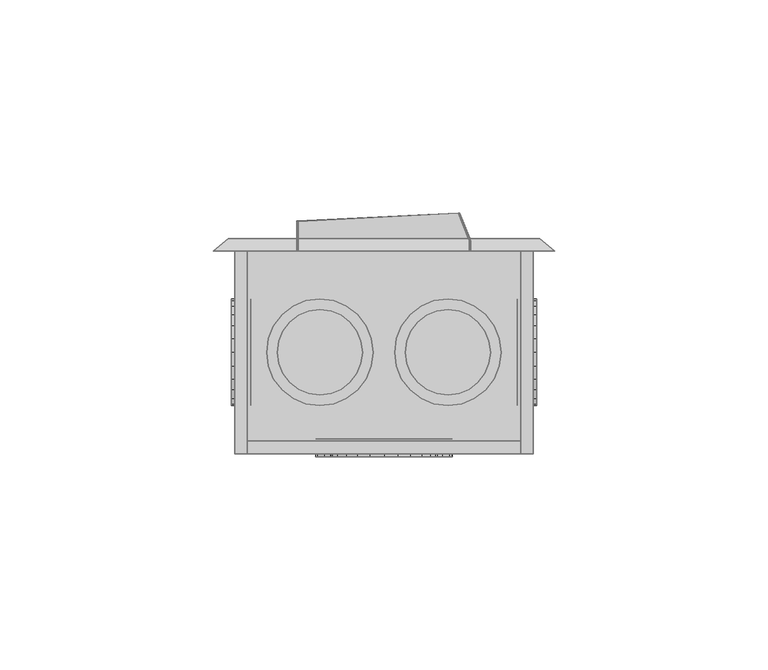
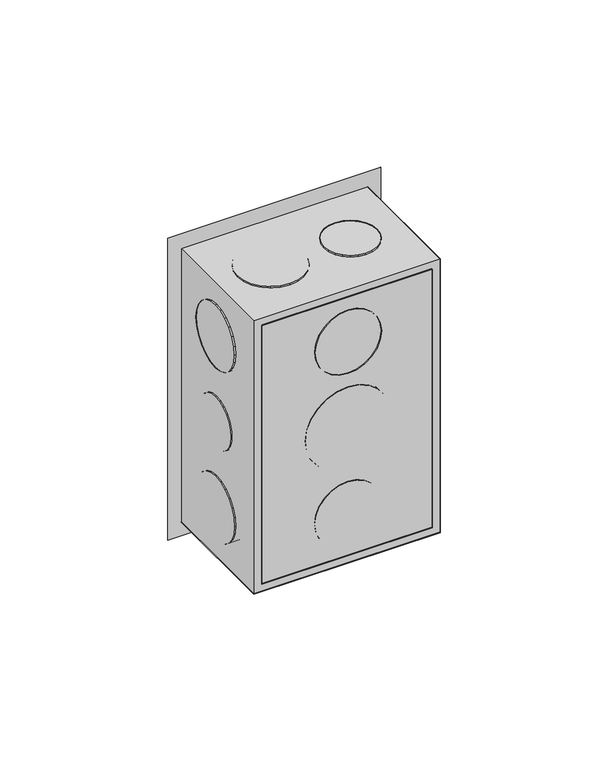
"""IFC4 building model written with IfcOpenShell, lengths in millimetres: proxy geometry,  210091 :  210091."""

from ifc_helpers import new_model, si_unit, origin, place, context, project, spatial, triangles, source, transform, mapped, element, save


def generic_models_42ce1b1e(model_context):
    return source(origin(), model_context, "Body", "Tessellation", [
        triangles([(11008.9001221, 8695.9000259, 1254.3000378), (11011.899939, 8695.9000259, 1148.7000154), (11008.9001221, 8695.9000259, 1145.6999805), (11011.899939, 8695.9000259, 1251.2999302), (11078.9005005, 8695.9000259, 1254.3000378), (11075.8995209, 8695.9000259, 1251.2999302), (11078.9005005, 8695.9000259, 1145.6999805), (11075.8995209, 8695.9000259, 1148.7000154), (11011.899939, 8648.4000183, 1251.2999302), (11011.899939, 8648.4000183, 1148.7000154), (11078.9005005, 8648.4000183, 1254.3000378), (11078.9005005, 8648.4000183, 1145.6999805), (11075.8995209, 8648.4000183, 1251.2999302), (11008.9001221, 8648.4000183, 1145.6999805), (11075.8995209, 8648.4000183, 1148.7000154), (11008.9001221, 8648.4000183, 1254.3000378), (11011.899939, 8651.3998352, 1251.2999302), (11075.8995209, 8651.3998352, 1148.7000154), (11011.899939, 8651.3998352, 1148.7000154), (11075.8995209, 8651.3998352, 1251.2999302), (11035.8996368, 8647.700061, 1186.0999855), (11029.9999969, 8647.700061, 1191.9999887), (11032.5998383, 8647.700061, 1188.6999722), (11039.7005676, 8647.700061, 1184.5000105), (11028.4000946, 8647.700061, 1195.8999687), (11043.9003113, 8647.700061, 1183.9999683), (11027.9001251, 8647.700061, 1200.0000092), (11048.000061, 8647.700061, 1184.5000105), (11028.4000946, 8647.700061, 1204.0999769), (11051.899823, 8647.700061, 1186.0999855), (11029.9999969, 8647.700061, 1208.0000296), (11055.1996216, 8647.700061, 1188.6999722), (11032.5998383, 8647.700061, 1211.2999735), (11057.699469, 8647.700061, 1191.9999887), (11035.8996368, 8647.700061, 1213.9000328), (11059.3005341, 8647.700061, 1195.8999687), (11039.7005676, 8647.700061, 1215.5000078), (11059.9004974, 8647.700061, 1200.0000092), (11043.9003113, 8647.700061, 1215.9999773), (11059.3005341, 8647.700061, 1204.0999769), (11048.000061, 8647.700061, 1215.5000078), (11057.699469, 8647.700061, 1208.0000296), (11051.899823, 8647.700061, 1213.9000328), (11055.1996216, 8647.700061, 1211.2999735), (11039.7005676, 8651.8998047, 1215.5000078), (11043.9003113, 8651.8998047, 1215.9999773), (11035.8996368, 8651.8998047, 1213.9000328), (11032.5998383, 8651.8998047, 1211.2999735), (11029.9999969, 8651.8998047, 1208.0000296), (11028.4000946, 8651.8998047, 1204.0999769), (11027.9001251, 8651.8998047, 1200.0000092), (11028.4000946, 8651.8998047, 1195.8999687), (11029.9999969, 8651.8998047, 1191.9999887), (11032.5998383, 8651.8998047, 1188.6999722), (11035.8996368, 8651.8998047, 1186.0999855), (11039.7005676, 8651.8998047, 1184.5000105), (11043.9003113, 8651.8998047, 1183.9999683), (11048.000061, 8651.8998047, 1184.5000105), (11051.899823, 8651.8998047, 1186.0999855), (11055.1996216, 8651.8998047, 1188.6999722), (11057.699469, 8651.8998047, 1191.9999887), (11059.3005341, 8651.8998047, 1195.8999687), (11059.9004974, 8651.8998047, 1200.0000092), (11059.3005341, 8651.8998047, 1204.0999769), (11057.699469, 8651.8998047, 1208.0000296), (11055.1996216, 8651.8998047, 1211.2999735), (11051.899823, 8651.8998047, 1213.9000328), (11048.000061, 8651.8998047, 1215.5000078), (11032.9998138, 8651.8998047, 1227.8000565), (11037.5995331, 8651.8998047, 1223.2000465), (11034.9996918, 8651.8998047, 1225.2000698), (11031.7998871, 8651.8998047, 1230.8000187), (11040.6005127, 8651.8998047, 1221.8999805), (11031.3999115, 8651.8998047, 1233.9999687), (11043.9003113, 8651.8998047, 1221.500005), (11031.7998871, 8651.8998047, 1237.2000641), (11047.100116, 8651.8998047, 1221.8999805), (11032.9998138, 8651.8998047, 1240.3000202), (11050.0999329, 8651.8998047, 1223.2000465), (11034.9996918, 8651.8998047, 1242.800013), (11052.6997742, 8651.8998047, 1225.2000698), (11054.6996521, 8651.8998047, 1227.8000565), (11037.5995331, 8651.8998047, 1244.8000362), (11040.6005127, 8651.8998047, 1246.0999569), (11055.8995789, 8651.8998047, 1230.8000187), (11043.9003113, 8651.8998047, 1246.4999325), (11056.3995483, 8651.8998047, 1233.9999687), (11047.100116, 8651.8998047, 1246.0999569), (11055.8995789, 8651.8998047, 1237.2000641), (11054.6996521, 8651.8998047, 1240.3000202), (11050.0999329, 8651.8998047, 1244.8000362), (11052.6997742, 8651.8998047, 1242.800013), (11055.8995789, 8647.700061, 1230.8000187), (11054.6996521, 8647.700061, 1227.8000565), (11052.6997742, 8647.700061, 1225.2000698), (11050.0999329, 8647.700061, 1223.2000465), (11047.100116, 8647.700061, 1221.8999805), (11043.9003113, 8647.700061, 1221.500005), (11040.6005127, 8647.700061, 1221.8999805), (11037.5995331, 8647.700061, 1223.2000465), (11034.9996918, 8647.700061, 1225.2000698), (11032.9998138, 8647.700061, 1227.8000565), (11031.7998871, 8647.700061, 1230.8000187), (11031.3999115, 8647.700061, 1233.9999687), (11031.7998871, 8647.700061, 1237.2000641), (11032.9998138, 8647.700061, 1240.3000202), (11034.9996918, 8647.700061, 1242.800013), (11037.5995331, 8647.700061, 1244.8000362), (11040.6005127, 8647.700061, 1246.0999569), (11043.9003113, 8647.700061, 1246.4999325), (11047.100116, 8647.700061, 1246.0999569), (11050.0999329, 8647.700061, 1244.8000362), (11052.6997742, 8647.700061, 1242.800013), (11054.6996521, 8647.700061, 1240.3000202), (11055.8995789, 8647.700061, 1237.2000641), (11056.3995483, 8647.700061, 1233.9999687), (11037.5995331, 8647.700061, 1155.1999821), (11032.9998138, 8647.700061, 1159.6999981), (11034.9996918, 8647.700061, 1157.2000053), (11040.6005127, 8647.700061, 1153.8999887), (11031.7998871, 8647.700061, 1162.8000269), (11043.9003113, 8647.700061, 1153.5000132), (11031.3999115, 8647.700061, 1165.9999769), (11047.100116, 8647.700061, 1153.8999887), (11031.7998871, 8647.700061, 1169.1999996), (11050.0999329, 8647.700061, 1155.1999821), (11032.9998138, 8647.700061, 1172.2000345), (11052.6997742, 8647.700061, 1157.2000053), (11034.9996918, 8647.700061, 1174.8000212), (11054.6996521, 8647.700061, 1159.6999981), (11037.5995331, 8647.700061, 1176.7999718), (11055.8995789, 8647.700061, 1162.8000269), (11040.6005127, 8647.700061, 1178.0999651), (11043.9003113, 8647.700061, 1178.5000134), (11056.3995483, 8647.700061, 1165.9999769), (11055.8995789, 8647.700061, 1169.1999996), (11047.100116, 8647.700061, 1178.0999651), (11054.6996521, 8647.700061, 1172.2000345), (11050.0999329, 8647.700061, 1176.7999718), (11052.6997742, 8647.700061, 1174.8000212), (11040.6005127, 8651.8998047, 1178.0999651), (11043.9003113, 8651.8998047, 1178.5000134), (11037.5995331, 8651.8998047, 1176.7999718), (11034.9996918, 8651.8998047, 1174.8000212), (11032.9998138, 8651.8998047, 1172.2000345), (11031.7998871, 8651.8998047, 1169.1999996), (11031.3999115, 8651.8998047, 1165.9999769), (11031.7998871, 8651.8998047, 1162.8000269), (11032.9998138, 8651.8998047, 1159.6999981), (11034.9996918, 8651.8998047, 1157.2000053), (11037.5995331, 8651.8998047, 1155.1999821), (11040.6005127, 8651.8998047, 1153.8999887), (11043.9003113, 8651.8998047, 1153.5000132), (11047.100116, 8651.8998047, 1153.8999887), (11050.0999329, 8651.8998047, 1155.1999821), (11052.6997742, 8651.8998047, 1157.2000053), (11054.6996521, 8651.8998047, 1159.6999981), (11055.8995789, 8651.8998047, 1162.8000269), (11056.3995483, 8651.8998047, 1165.9999769), (11055.8995789, 8651.8998047, 1169.1999996), (11054.6996521, 8651.8998047, 1172.2000345), (11052.6997742, 8651.8998047, 1174.8000212), (11050.0999329, 8651.8998047, 1176.7999718), (11047.100116, 8651.8998047, 1178.0999651), (11008.1001709, 8663.5002594, 1195.0000237), (11008.1001709, 8667.2000336, 1191.3000315), (11008.1001709, 8665.1001617, 1192.9000065), (11008.1001709, 8662.4997391, 1197.4000225), (11008.1001709, 8669.5998871, 1190.3000198), (11008.1001709, 8662.1997574, 1200.0000092), (11008.1001709, 8672.1997284, 1189.9999655), (11008.1001709, 8662.4997391, 1202.5999958), (11008.1001709, 8674.8001511, 1190.3000198), (11008.1001709, 8663.5002594, 1204.9999947), (11008.1001709, 8677.2000046, 1191.3000315), (11008.1001709, 8665.1001617, 1207.1000118), (11008.1001709, 8679.2998764, 1192.9000065), (11008.1001709, 8667.2000336, 1208.6999868), (11008.1001709, 8680.8997787, 1195.0000237), (11008.1001709, 8669.5998871, 1209.6999985), (11008.1001709, 8681.8997177, 1197.4000225), (11008.1001709, 8682.2002808, 1200.0000092), (11008.1001709, 8672.1997284, 1209.9999802), (11008.1001709, 8674.8001511, 1209.6999985), (11008.1001709, 8681.8997177, 1202.5999958), (11008.1001709, 8677.2000046, 1208.6999868), (11008.1001709, 8680.8997787, 1204.9999947), (11008.1001709, 8679.2998764, 1207.1000118), (11012.6998901, 8669.5998871, 1209.6999985), (11012.6998901, 8672.1997284, 1209.9999802), (11012.6998901, 8674.8001511, 1209.6999985), (11012.6998901, 8677.2000046, 1208.6999868), (11012.6998901, 8679.2998764, 1207.1000118), (11012.6998901, 8680.8997787, 1204.9999947), (11012.6998901, 8681.8997177, 1202.5999958), (11012.6998901, 8682.2002808, 1200.0000092), (11012.6998901, 8681.8997177, 1197.4000225), (11012.6998901, 8680.8997787, 1195.0000237), (11012.6998901, 8679.2998764, 1192.9000065), (11012.6998901, 8677.2000046, 1191.3000315), (11012.6998901, 8674.8001511, 1190.3000198), (11012.6998901, 8672.1997284, 1189.9999655), (11012.6998901, 8669.5998871, 1190.3000198), (11012.6998901, 8667.2000336, 1191.3000315), (11012.6998901, 8665.1001617, 1192.9000065), (11012.6998901, 8663.5002594, 1195.0000237), (11012.6998901, 8662.4997391, 1197.4000225), (11012.6998901, 8662.1997574, 1200.0000092), (11012.6998901, 8662.4997391, 1202.5999958), (11012.6998901, 8663.5002594, 1204.9999947), (11012.6998901, 8665.1001617, 1207.1000118), (11012.6998901, 8667.2000336, 1208.6999868), (11012.6998901, 8665.9001129, 1223.2000465), (11012.6998901, 8661.3998062, 1227.8000565), (11012.6998901, 8663.4002655, 1225.2000698), (11012.6998901, 8668.9999237, 1221.8999805), (11012.6998901, 8660.0998856, 1230.8000187), (11012.6998901, 8659.69991, 1233.9999687), (11012.6998901, 8672.1997284, 1221.500005), (11012.6998901, 8675.4001144, 1221.8999805), (11012.6998901, 8660.0998856, 1237.2000641), (11012.6998901, 8661.3998062, 1240.3000202), (11012.6998901, 8678.3999313, 1223.2000465), (11012.6998901, 8680.9997726, 1225.2000698), (11012.6998901, 8663.4002655, 1242.800013), (11012.6998901, 8683.0002319, 1227.8000565), (11012.6998901, 8665.9001129, 1244.8000362), (11012.6998901, 8684.3001526, 1230.8000187), (11012.6998901, 8668.9999237, 1246.0999569), (11012.6998901, 8684.7001282, 1233.9999687), (11012.6998901, 8672.1997284, 1246.4999325), (11012.6998901, 8684.3001526, 1237.2000641), (11012.6998901, 8675.4001144, 1246.0999569), (11012.6998901, 8683.0002319, 1240.3000202), (11012.6998901, 8678.3999313, 1244.8000362), (11012.6998901, 8680.9997726, 1242.800013), (11008.1001709, 8672.1997284, 1221.500005), (11008.1001709, 8668.9999237, 1221.8999805), (11008.1001709, 8675.4001144, 1221.8999805), (11008.1001709, 8678.3999313, 1223.2000465), (11008.1001709, 8680.9997726, 1225.2000698), (11008.1001709, 8683.0002319, 1227.8000565), (11008.1001709, 8684.3001526, 1230.8000187), (11008.1001709, 8684.7001282, 1233.9999687), (11008.1001709, 8684.3001526, 1237.2000641), (11008.1001709, 8683.0002319, 1240.3000202), (11008.1001709, 8680.9997726, 1242.800013), (11008.1001709, 8678.3999313, 1244.8000362), (11008.1001709, 8675.4001144, 1246.0999569), (11008.1001709, 8672.1997284, 1246.4999325), (11008.1001709, 8668.9999237, 1246.0999569), (11008.1001709, 8665.9001129, 1244.8000362), (11008.1001709, 8663.4002655, 1242.800013), (11008.1001709, 8661.3998062, 1240.3000202), (11008.1001709, 8660.0998856, 1237.2000641), (11008.1001709, 8659.69991, 1233.9999687), (11008.1001709, 8660.0998856, 1230.8000187), (11008.1001709, 8661.3998062, 1227.8000565), (11008.1001709, 8663.4002655, 1225.2000698), (11008.1001709, 8665.9001129, 1223.2000465), (11008.1001709, 8661.3998062, 1159.6999981), (11008.1001709, 8665.9001129, 1155.1999821), (11008.1001709, 8663.4002655, 1157.2000053), (11008.1001709, 8660.0998856, 1162.8000269), (11008.1001709, 8668.9999237, 1153.8999887), (11008.1001709, 8659.69991, 1165.9999769), (11008.1001709, 8672.1997284, 1153.5000132), (11008.1001709, 8660.0998856, 1169.1999996), (11008.1001709, 8675.4001144, 1153.8999887), (11008.1001709, 8661.3998062, 1172.2000345), (11008.1001709, 8678.3999313, 1155.1999821), (11008.1001709, 8663.4002655, 1174.8000212), (11008.1001709, 8680.9997726, 1157.2000053), (11008.1001709, 8665.9001129, 1176.7999718), (11008.1001709, 8683.0002319, 1159.6999981), (11008.1001709, 8668.9999237, 1178.0999651), (11008.1001709, 8684.3001526, 1162.8000269), (11008.1001709, 8672.1997284, 1178.5000134), (11008.1001709, 8684.7001282, 1165.9999769), (11008.1001709, 8675.4001144, 1178.0999651), (11008.1001709, 8684.3001526, 1169.1999996), (11008.1001709, 8678.3999313, 1176.7999718), (11008.1001709, 8683.0002319, 1172.2000345), (11008.1001709, 8680.9997726, 1174.8000212), (11012.6998901, 8668.9999237, 1178.0999651), (11012.6998901, 8672.1997284, 1178.5000134), (11012.6998901, 8675.4001144, 1178.0999651), (11012.6998901, 8678.3999313, 1176.7999718), (11012.6998901, 8680.9997726, 1174.8000212), (11012.6998901, 8683.0002319, 1172.2000345), (11012.6998901, 8684.3001526, 1169.1999996), (11012.6998901, 8684.7001282, 1165.9999769), (11012.6998901, 8684.3001526, 1162.8000269), (11012.6998901, 8683.0002319, 1159.6999981), (11012.6998901, 8680.9997726, 1157.2000053), (11012.6998901, 8678.3999313, 1155.1999821), (11012.6998901, 8675.4001144, 1153.8999887), (11012.6998901, 8672.1997284, 1153.5000132), (11012.6998901, 8668.9999237, 1153.8999887), (11012.6998901, 8665.9001129, 1155.1999821), (11012.6998901, 8663.4002655, 1157.2000053), (11012.6998901, 8661.3998062, 1159.6999981), (11012.6998901, 8660.0998856, 1162.8000269), (11012.6998901, 8659.69991, 1165.9999769), (11012.6998901, 8660.0998856, 1169.1999996), (11012.6998901, 8661.3998062, 1172.2000345), (11012.6998901, 8663.4002655, 1174.8000212), (11012.6998901, 8665.9001129, 1176.7999718), (11079.7004517, 8667.2000336, 1191.3000315), (11079.7004517, 8663.5002594, 1195.0000237), (11079.7004517, 8665.1001617, 1192.9000065), (11079.7004517, 8662.4997391, 1197.4000225), (11079.7004517, 8669.5998871, 1190.3000198), (11079.7004517, 8662.1997574, 1200.0000092), (11079.7004517, 8672.1997284, 1189.9999655), (11079.7004517, 8674.8001511, 1190.3000198), (11079.7004517, 8662.4997391, 1202.5999958), (11079.7004517, 8663.5002594, 1204.9999947), (11079.7004517, 8677.2000046, 1191.3000315), (11079.7004517, 8665.1001617, 1207.1000118), (11079.7004517, 8679.2998764, 1192.9000065), (11079.7004517, 8680.8997787, 1195.0000237), (11079.7004517, 8667.2000336, 1208.6999868), (11079.7004517, 8681.8997177, 1197.4000225), (11079.7004517, 8669.5998871, 1209.6999985), (11079.7004517, 8682.2002808, 1200.0000092), (11079.7004517, 8672.1997284, 1209.9999802), (11079.7004517, 8681.8997177, 1202.5999958), (11079.7004517, 8674.8001511, 1209.6999985), (11079.7004517, 8677.2000046, 1208.6999868), (11079.7004517, 8680.8997787, 1204.9999947), (11079.7004517, 8679.2998764, 1207.1000118), (11075.0995697, 8669.5998871, 1190.3000198), (11075.0995697, 8667.2000336, 1191.3000315), (11075.0995697, 8672.1997284, 1189.9999655), (11075.0995697, 8674.8001511, 1190.3000198), (11075.0995697, 8677.2000046, 1191.3000315), (11075.0995697, 8679.2998764, 1192.9000065), (11075.0995697, 8680.8997787, 1195.0000237), (11075.0995697, 8681.8997177, 1197.4000225), (11075.0995697, 8682.2002808, 1200.0000092), (11075.0995697, 8681.8997177, 1202.5999958), (11075.0995697, 8680.8997787, 1204.9999947), (11075.0995697, 8679.2998764, 1207.1000118), (11075.0995697, 8677.2000046, 1208.6999868), (11075.0995697, 8674.8001511, 1209.6999985), (11075.0995697, 8672.1997284, 1209.9999802), (11075.0995697, 8669.5998871, 1209.6999985), (11075.0995697, 8667.2000336, 1208.6999868), (11075.0995697, 8665.1001617, 1207.1000118), (11075.0995697, 8663.5002594, 1204.9999947), (11075.0995697, 8662.4997391, 1202.5999958), (11075.0995697, 8662.1997574, 1200.0000092), (11075.0995697, 8662.4997391, 1197.4000225), (11075.0995697, 8663.5002594, 1195.0000237), (11075.0995697, 8665.1001617, 1192.9000065), (11075.0995697, 8661.3998062, 1159.6999981), (11075.0995697, 8665.9001129, 1155.1999821), (11075.0995697, 8663.4002655, 1157.2000053), (11075.0995697, 8660.0998856, 1162.8000269), (11075.0995697, 8668.9999237, 1153.8999887), (11075.0995697, 8659.69991, 1165.9999769), (11075.0995697, 8672.1997284, 1153.5000132), (11075.0995697, 8660.0998856, 1169.1999996), (11075.0995697, 8675.4001144, 1153.8999887), (11075.0995697, 8661.3998062, 1172.2000345), (11075.0995697, 8678.3999313, 1155.1999821), (11075.0995697, 8663.4002655, 1174.8000212), (11075.0995697, 8680.9997726, 1157.2000053), (11075.0995697, 8665.9001129, 1176.7999718), (11075.0995697, 8683.0002319, 1159.6999981), (11075.0995697, 8668.9999237, 1178.0999651), (11075.0995697, 8684.3001526, 1162.8000269), (11075.0995697, 8672.1997284, 1178.5000134), (11075.0995697, 8684.7001282, 1165.9999769), (11075.0995697, 8675.4001144, 1178.0999651), (11075.0995697, 8684.3001526, 1169.1999996), (11075.0995697, 8678.3999313, 1176.7999718), (11075.0995697, 8683.0002319, 1172.2000345), (11075.0995697, 8680.9997726, 1174.8000212), (11079.7004517, 8668.9999237, 1178.0999651), (11079.7004517, 8672.1997284, 1178.5000134), (11079.7004517, 8675.4001144, 1178.0999651), (11079.7004517, 8678.3999313, 1176.7999718), (11079.7004517, 8680.9997726, 1174.8000212), (11079.7004517, 8683.0002319, 1172.2000345), (11079.7004517, 8684.3001526, 1169.1999996), (11079.7004517, 8684.7001282, 1165.9999769), (11079.7004517, 8684.3001526, 1162.8000269), (11079.7004517, 8683.0002319, 1159.6999981), (11079.7004517, 8680.9997726, 1157.2000053), (11079.7004517, 8678.3999313, 1155.1999821), (11079.7004517, 8675.4001144, 1153.8999887), (11079.7004517, 8672.1997284, 1153.5000132), (11079.7004517, 8668.9999237, 1153.8999887), (11079.7004517, 8665.9001129, 1155.1999821), (11079.7004517, 8663.4002655, 1157.2000053), (11079.7004517, 8661.3998062, 1159.6999981), (11079.7004517, 8660.0998856, 1162.8000269), (11079.7004517, 8659.69991, 1165.9999769), (11079.7004517, 8660.0998856, 1169.1999996), (11079.7004517, 8661.3998062, 1172.2000345), (11079.7004517, 8663.4002655, 1174.8000212), (11079.7004517, 8665.9001129, 1176.7999718), (11079.7004517, 8665.9001129, 1223.2000465), (11079.7004517, 8661.3998062, 1227.8000565), (11079.7004517, 8663.4002655, 1225.2000698), (11079.7004517, 8668.9999237, 1221.8999805), (11079.7004517, 8660.0998856, 1230.8000187), (11079.7004517, 8659.69991, 1233.9999687), (11079.7004517, 8672.1997284, 1221.500005), (11079.7004517, 8675.4001144, 1221.8999805), (11079.7004517, 8660.0998856, 1237.2000641), (11079.7004517, 8661.3998062, 1240.3000202), (11079.7004517, 8678.3999313, 1223.2000465), (11079.7004517, 8680.9997726, 1225.2000698), (11079.7004517, 8663.4002655, 1242.800013), (11079.7004517, 8683.0002319, 1227.8000565), (11079.7004517, 8665.9001129, 1244.8000362), (11079.7004517, 8684.3001526, 1230.8000187), (11079.7004517, 8668.9999237, 1246.0999569), (11079.7004517, 8684.7001282, 1233.9999687), (11079.7004517, 8672.1997284, 1246.4999325), (11079.7004517, 8684.3001526, 1237.2000641), (11079.7004517, 8675.4001144, 1246.0999569), (11079.7004517, 8683.0002319, 1240.3000202), (11079.7004517, 8678.3999313, 1244.8000362), (11079.7004517, 8680.9997726, 1242.800013), (11075.0995697, 8672.1997284, 1221.500005), (11075.0995697, 8668.9999237, 1221.8999805), (11075.0995697, 8675.4001144, 1221.8999805), (11075.0995697, 8678.3999313, 1223.2000465), (11075.0995697, 8680.9997726, 1225.2000698), (11075.0995697, 8683.0002319, 1227.8000565), (11075.0995697, 8684.3001526, 1230.8000187), (11075.0995697, 8684.7001282, 1233.9999687), (11075.0995697, 8684.3001526, 1237.2000641), (11075.0995697, 8683.0002319, 1240.3000202), (11075.0995697, 8680.9997726, 1242.800013), (11075.0995697, 8678.3999313, 1244.8000362), (11075.0995697, 8675.4001144, 1246.0999569), (11075.0995697, 8672.1997284, 1246.4999325), (11075.0995697, 8668.9999237, 1246.0999569), (11075.0995697, 8665.9001129, 1244.8000362), (11075.0995697, 8663.4002655, 1242.800013), (11075.0995697, 8661.3998062, 1240.3000202), (11075.0995697, 8660.0998856, 1237.2000641), (11075.0995697, 8659.69991, 1233.9999687), (11075.0995697, 8660.0998856, 1230.8000187), (11075.0995697, 8661.3998062, 1227.8000565), (11075.0995697, 8663.4002655, 1225.2000698), (11075.0995697, 8665.9001129, 1223.2000465), (11022.6004486, 8661.3998062, 1255.1999828), (11017.9995667, 8665.9001129, 1255.1999828), (11019.9994446, 8663.4002655, 1255.1999828), (11016.7996399, 8668.9999237, 1255.1999828), (11025.6002655, 8660.0998856, 1255.1999828), (11028.9000641, 8659.69991, 1255.1999828), (11016.3996643, 8672.1997284, 1255.1999828), (11016.7996399, 8675.4001144, 1255.1999828), (11032.0998688, 8660.0998856, 1255.1999828), (11035.0996857, 8661.3998062, 1255.1999828), (11017.9995667, 8678.3999313, 1255.1999828), (11019.9994446, 8680.9997726, 1255.1999828), (11037.699527, 8663.4002655, 1255.1999828), (11039.7005676, 8665.9001129, 1255.1999828), (11022.6004486, 8683.0002319, 1255.1999828), (11025.6002655, 8684.3001526, 1255.1999828), (11040.9004944, 8668.9999237, 1255.1999828), (11028.9000641, 8684.7001282, 1255.1999828), (11041.4004639, 8672.1997284, 1255.1999828), (11032.0998688, 8684.3001526, 1255.1999828), (11040.9004944, 8675.4001144, 1255.1999828), (11039.7005676, 8678.3999313, 1255.1999828), (11035.0996857, 8683.0002319, 1255.1999828), (11037.699527, 8680.9997726, 1255.1999828), (11028.9000641, 8684.7001282, 1250.9999485), (11025.6002655, 8684.3001526, 1250.9999485), (11022.6004486, 8683.0002319, 1250.9999485), (11019.9994446, 8680.9997726, 1250.9999485), (11017.9995667, 8678.3999313, 1250.9999485), (11016.7996399, 8675.4001144, 1250.9999485), (11016.3996643, 8672.1997284, 1250.9999485), (11016.7996399, 8668.9999237, 1250.9999485), (11017.9995667, 8665.9001129, 1250.9999485), (11019.9994446, 8663.4002655, 1250.9999485), (11022.6004486, 8661.3998062, 1250.9999485), (11025.6002655, 8660.0998856, 1250.9999485), (11028.9000641, 8659.69991, 1250.9999485), (11032.0998688, 8660.0998856, 1250.9999485), (11035.0996857, 8661.3998062, 1250.9999485), (11037.699527, 8663.4002655, 1250.9999485), (11039.7005676, 8665.9001129, 1250.9999485), (11040.9004944, 8668.9999237, 1250.9999485), (11041.4004639, 8672.1997284, 1250.9999485), (11040.9004944, 8675.4001144, 1250.9999485), (11039.7005676, 8678.3999313, 1250.9999485), (11037.699527, 8680.9997726, 1250.9999485), (11035.0996857, 8683.0002319, 1250.9999485), (11032.0998688, 8684.3001526, 1250.9999485), (11050.1999268, 8667.2000336, 1250.9999485), (11053.8997009, 8663.5002594, 1250.9999485), (11051.7998291, 8665.1001617, 1250.9999485), (11056.2995544, 8662.4997391, 1250.9999485), (11049.1999878, 8669.5998871, 1250.9999485), (11058.9005585, 8662.1997574, 1250.9999485), (11048.9000061, 8672.1997284, 1250.9999485), (11049.1999878, 8674.8001511, 1250.9999485), (11061.5003998, 8662.4997391, 1250.9999485), (11063.9002533, 8663.5002594, 1250.9999485), (11050.1999268, 8677.2000046, 1250.9999485), (11065.9001312, 8665.1001617, 1250.9999485), (11051.7998291, 8679.2998764, 1250.9999485), (11053.8997009, 8680.8997787, 1250.9999485), (11067.5000336, 8667.2000336, 1250.9999485), (11068.4999725, 8669.5998871, 1250.9999485), (11056.2995544, 8681.8997177, 1250.9999485), (11058.9005585, 8682.2002808, 1250.9999485), (11068.8999481, 8672.1997284, 1250.9999485), (11061.5003998, 8681.8997177, 1250.9999485), (11068.4999725, 8674.8001511, 1250.9999485), (11063.9002533, 8680.8997787, 1250.9999485), (11067.5000336, 8677.2000046, 1250.9999485), (11065.9001312, 8679.2998764, 1250.9999485), (11061.5003998, 8662.4997391, 1255.1999828), (11063.9002533, 8663.5002594, 1255.1999828), (11058.9005585, 8662.1997574, 1255.1999828), (11056.2995544, 8662.4997391, 1255.1999828), (11053.8997009, 8663.5002594, 1255.1999828), (11051.7998291, 8665.1001617, 1255.1999828), (11050.1999268, 8667.2000336, 1255.1999828), (11049.1999878, 8669.5998871, 1255.1999828), (11048.9000061, 8672.1997284, 1255.1999828), (11049.1999878, 8674.8001511, 1255.1999828), (11050.1999268, 8677.2000046, 1255.1999828), (11051.7998291, 8679.2998764, 1255.1999828), (11053.8997009, 8680.8997787, 1255.1999828), (11056.2995544, 8681.8997177, 1255.1999828), (11058.9005585, 8682.2002808, 1255.1999828), (11061.5003998, 8681.8997177, 1255.1999828), (11063.9002533, 8680.8997787, 1255.1999828), (11065.9001312, 8679.2998764, 1255.1999828), (11067.5000336, 8677.2000046, 1255.1999828), (11068.4999725, 8674.8001511, 1255.1999828), (11068.8999481, 8672.1997284, 1255.1999828), (11068.4999725, 8669.5998871, 1255.1999828), (11067.5000336, 8667.2000336, 1255.1999828), (11065.9001312, 8665.1001617, 1255.1999828), (11020.1994324, 8667.2000336, 1144.8000355), (11023.9003693, 8663.5002594, 1144.8000355), (11021.8004974, 8665.1001617, 1144.8000355), (11026.3002228, 8662.4997391, 1144.8000355), (11019.1994934, 8669.5998871, 1144.8000355), (11028.9000641, 8662.1997574, 1144.8000355), (11018.8995117, 8672.1997284, 1144.8000355), (11019.1994934, 8674.8001511, 1144.8000355), (11031.4999054, 8662.4997391, 1144.8000355), (11033.8997589, 8663.5002594, 1144.8000355), (11020.1994324, 8677.2000046, 1144.8000355), (11035.8996368, 8665.1001617, 1144.8000355), (11021.8004974, 8679.2998764, 1144.8000355), (11023.9003693, 8680.8997787, 1144.8000355), (11037.4995392, 8667.2000336, 1144.8000355), (11038.4994781, 8669.5998871, 1144.8000355), (11026.3002228, 8681.8997177, 1144.8000355), (11028.9000641, 8682.2002808, 1144.8000355), (11038.8994537, 8672.1997284, 1144.8000355), (11031.4999054, 8681.8997177, 1144.8000355), (11038.4994781, 8674.8001511, 1144.8000355), (11033.8997589, 8680.8997787, 1144.8000355), (11037.4995392, 8677.2000046, 1144.8000355), (11035.8996368, 8679.2998764, 1144.8000355), (11026.3002228, 8662.4997391, 1149.099991), (11028.9000641, 8662.1997574, 1149.099991), (11023.9003693, 8663.5002594, 1149.099991), (11021.8004974, 8665.1001617, 1149.099991), (11020.1994324, 8667.2000336, 1149.099991), (11019.1994934, 8669.5998871, 1149.099991), (11018.8995117, 8672.1997284, 1149.099991), (11019.1994934, 8674.8001511, 1149.099991), (11020.1994324, 8677.2000046, 1149.099991), (11021.8004974, 8679.2998764, 1149.099991), (11023.9003693, 8680.8997787, 1149.099991), (11026.3002228, 8681.8997177, 1149.099991), (11028.9000641, 8682.2002808, 1149.099991), (11031.4999054, 8681.8997177, 1149.099991), (11033.8997589, 8680.8997787, 1149.099991), (11035.8996368, 8679.2998764, 1149.099991), (11037.4995392, 8677.2000046, 1149.099991), (11038.4994781, 8674.8001511, 1149.099991), (11038.8994537, 8672.1997284, 1149.099991), (11038.4994781, 8669.5998871, 1149.099991), (11037.4995392, 8667.2000336, 1149.099991), (11035.8996368, 8665.1001617, 1149.099991), (11033.8997589, 8663.5002594, 1149.099991), (11031.4999054, 8662.4997391, 1149.099991), (11048.000061, 8665.9001129, 1144.8000355), (11052.5997803, 8661.3998062, 1144.8000355), (11049.999939, 8663.4002655, 1144.8000355), (11046.8001343, 8668.9999237, 1144.8000355), (11055.5995972, 8660.0998856, 1144.8000355), (11058.9005585, 8659.69991, 1144.8000355), (11046.4001587, 8672.1997284, 1144.8000355), (11046.8001343, 8675.4001144, 1144.8000355), (11062.1003632, 8660.0998856, 1144.8000355), (11065.1001801, 8661.3998062, 1144.8000355), (11048.000061, 8678.3999313, 1144.8000355), (11049.999939, 8680.9997726, 1144.8000355), (11067.7000214, 8663.4002655, 1144.8000355), (11069.6998993, 8665.9001129, 1144.8000355), (11052.5997803, 8683.0002319, 1144.8000355), (11055.5995972, 8684.3001526, 1144.8000355), (11070.899826, 8668.9999237, 1144.8000355), (11058.9005585, 8684.7001282, 1144.8000355), (11071.3997955, 8672.1997284, 1144.8000355), (11062.1003632, 8684.3001526, 1144.8000355), (11070.899826, 8675.4001144, 1144.8000355), (11069.6998993, 8678.3999313, 1144.8000355), (11065.1001801, 8683.0002319, 1144.8000355), (11067.7000214, 8680.9997726, 1144.8000355), (11062.1003632, 8660.0998856, 1149.099991), (11065.1001801, 8661.3998062, 1149.099991), (11058.9005585, 8659.69991, 1149.099991), (11055.5995972, 8660.0998856, 1149.099991), (11052.5997803, 8661.3998062, 1149.099991), (11049.999939, 8663.4002655, 1149.099991), (11048.000061, 8665.9001129, 1149.099991), (11046.8001343, 8668.9999237, 1149.099991), (11046.4001587, 8672.1997284, 1149.099991), (11046.8001343, 8675.4001144, 1149.099991), (11048.000061, 8678.3999313, 1149.099991), (11049.999939, 8680.9997726, 1149.099991), (11052.5997803, 8683.0002319, 1149.099991), (11055.5995972, 8684.3001526, 1149.099991), (11058.9005585, 8684.7001282, 1149.099991), (11062.1003632, 8684.3001526, 1149.099991), (11065.1001801, 8683.0002319, 1149.099991), (11067.7000214, 8680.9997726, 1149.099991), (11069.6998993, 8678.3999313, 1149.099991), (11070.899826, 8675.4001144, 1149.099991), (11071.3997955, 8672.1997284, 1149.099991), (11070.899826, 8668.9999237, 1149.099991), (11069.6998993, 8665.9001129, 1149.099991), (11067.7000214, 8663.4002655, 1149.099991), (11083.9001953, 8695.9000259, 1139.9999651), (11023.7003815, 8695.9000259, 1164.5999897), (11003.9004272, 8695.9000259, 1139.9999651), (11064.1002411, 8695.9000259, 1164.5999897), (11083.9001953, 8695.9000259, 1259.9999805), (11064.1002411, 8695.9000259, 1188.0000149), (11064.1002411, 8695.9000259, 1211.3999674), (11064.1002411, 8695.9000259, 1234.8000652), (11003.9004272, 8695.9000259, 1259.9999805), (11023.7003815, 8695.9000259, 1188.0000149), (11023.7003815, 8695.9000259, 1211.3999674), (11023.7003815, 8695.9000259, 1234.8000652), (11023.7003815, 8698.8998428, 1188.0000149), (11064.1002411, 8698.8998428, 1188.0000149), (11023.7003815, 8698.8998428, 1234.8000652), (11064.1002411, 8698.8998428, 1234.8000652), (11064.1002411, 8698.8998428, 1164.5999897), (11064.1002411, 8698.8998428, 1211.3999674), (11023.7003815, 8698.8998428, 1164.5999897), (11023.7003815, 8698.8998428, 1211.3999674), (11007.4002136, 8698.8998428, 1143.4999695), (11007.4002136, 8698.8998428, 1256.5000488), (11080.4004089, 8698.8998428, 1143.4999695), (11080.4004089, 8698.8998428, 1256.5000488), (11023.8003754, 8702.9001801, 1211.2999735), (11064.200235, 8695.9000259, 1211.2999735), (11023.8003754, 8695.9000259, 1211.2999735), (11061.6003937, 8704.8000641, 1211.2999735), (11064.200235, 8698.3998734, 1211.2999735), (11023.8003754, 8695.9000259, 1234.7000713), (11064.200235, 8695.9000259, 1234.7000713), (11023.8003754, 8702.9001801, 1234.7000713), (11061.6003937, 8704.8000641, 1234.7000713), (11064.200235, 8698.3998734, 1234.7000713), (11023.5003937, 8702.9001801, 1164.6999836), (11063.9002533, 8695.9000259, 1164.6999836), (11023.5003937, 8695.9000259, 1164.6999836), (11061.300412, 8704.8000641, 1164.6999836), (11063.9002533, 8698.3998734, 1164.6999836), (11023.5003937, 8695.9000259, 1188.1000088), (11063.9002533, 8695.9000259, 1188.1000088), (11023.5003937, 8702.9001801, 1188.1000088), (11061.300412, 8704.8000641, 1188.1000088), (11063.9002533, 8698.3998734, 1188.1000088)], [[1, 2, 3], [2, 1, 4], [5, 4, 1], [4, 5, 6], [3, 2, 7], [7, 2, 8], [7, 8, 6], [7, 6, 5], [2, 9, 10], [9, 2, 4], [7, 11, 12], [11, 7, 5], [4, 13, 9], [13, 4, 6], [3, 12, 14], [12, 3, 7], [13, 8, 15], [8, 13, 6], [16, 3, 14], [3, 16, 1], [15, 2, 10], [2, 15, 8], [11, 1, 16], [1, 11, 5], [12, 10, 14], [10, 12, 15], [11, 15, 12], [15, 11, 13], [14, 10, 16], [16, 10, 9], [16, 9, 13], [16, 13, 11], [17, 18, 19], [18, 17, 20], [18, 13, 15], [13, 18, 20], [19, 15, 10], [15, 19, 18], [9, 19, 10], [19, 9, 17], [13, 17, 9], [17, 13, 20], [15, 9, 10], [9, 15, 13], [21, 22, 23], [22, 21, 24], [25, 22, 24], [25, 24, 26], [27, 25, 26], [27, 26, 28], [29, 27, 28], [29, 28, 30], [31, 29, 30], [31, 30, 32], [31, 32, 33], [33, 32, 34], [33, 34, 35], [35, 34, 36], [35, 36, 37], [37, 36, 38], [37, 38, 39], [39, 38, 40], [39, 40, 41], [41, 40, 42], [41, 42, 43], [43, 42, 44], [39, 45, 37], [45, 39, 46], [37, 47, 35], [47, 37, 45], [35, 48, 33], [48, 35, 47], [33, 49, 31], [49, 33, 48], [31, 50, 29], [50, 31, 49], [29, 51, 27], [51, 29, 50], [27, 52, 25], [52, 27, 51], [25, 53, 22], [53, 25, 52], [22, 54, 23], [54, 22, 53], [54, 21, 23], [21, 54, 55], [55, 24, 21], [24, 55, 56], [56, 26, 24], [26, 56, 57], [57, 28, 26], [28, 57, 58], [58, 30, 28], [30, 58, 59], [59, 32, 30], [32, 59, 60], [60, 34, 32], [34, 60, 61], [61, 36, 34], [36, 61, 62], [62, 38, 36], [38, 62, 63], [63, 40, 38], [40, 63, 64], [64, 42, 40], [42, 64, 65], [65, 44, 42], [44, 65, 66], [44, 67, 43], [67, 44, 66], [43, 68, 41], [68, 43, 67], [41, 46, 39], [46, 41, 68], [53, 55, 54], [55, 53, 52], [56, 55, 52], [56, 52, 51], [57, 56, 51], [57, 51, 50], [58, 57, 50], [58, 50, 49], [59, 58, 49], [59, 49, 48], [59, 48, 60], [60, 48, 47], [60, 47, 61], [61, 47, 45], [61, 45, 62], [62, 45, 46], [62, 46, 63], [63, 46, 68], [63, 68, 64], [64, 68, 67], [64, 67, 65], [65, 67, 66], [69, 70, 71], [70, 69, 72], [73, 70, 72], [73, 72, 74], [75, 73, 74], [75, 74, 76], [77, 75, 76], [77, 76, 78], [79, 77, 78], [79, 78, 80], [81, 79, 80], [81, 80, 82], [82, 80, 83], [82, 83, 84], [82, 84, 85], [85, 84, 86], [85, 86, 87], [87, 86, 88], [87, 88, 89], [89, 88, 90], [90, 88, 91], [90, 91, 92], [82, 93, 94], [93, 82, 85], [81, 94, 95], [94, 81, 82], [79, 95, 96], [95, 79, 81], [77, 96, 97], [96, 77, 79], [75, 97, 98], [97, 75, 77], [73, 98, 99], [98, 73, 75], [70, 99, 100], [99, 70, 73], [71, 100, 101], [100, 71, 70], [102, 71, 101], [71, 102, 69], [103, 69, 102], [69, 103, 72], [104, 72, 103], [72, 104, 74], [105, 74, 104], [74, 105, 76], [106, 76, 105], [76, 106, 78], [107, 78, 106], [78, 107, 80], [108, 80, 107], [80, 108, 83], [109, 83, 108], [83, 109, 84], [110, 84, 109], [84, 110, 86], [111, 86, 110], [86, 111, 88], [112, 88, 111], [88, 112, 91], [113, 91, 112], [91, 113, 92], [90, 113, 114], [113, 90, 92], [89, 114, 115], [114, 89, 90], [87, 115, 116], [115, 87, 89], [85, 116, 93], [116, 85, 87], [100, 102, 101], [102, 100, 99], [103, 102, 99], [103, 99, 98], [104, 103, 98], [104, 98, 97], [105, 104, 97], [106, 105, 97], [106, 97, 96], [106, 96, 95], [106, 95, 107], [107, 95, 94], [107, 94, 108], [108, 94, 93], [108, 93, 109], [109, 93, 116], [109, 116, 110], [110, 116, 115], [110, 115, 111], [111, 115, 114], [111, 114, 112], [112, 114, 113], [117, 118, 119], [118, 117, 120], [121, 118, 120], [121, 120, 122], [123, 121, 122], [123, 122, 124], [125, 123, 124], [125, 124, 126], [127, 125, 126], [127, 126, 128], [127, 128, 129], [129, 128, 130], [129, 130, 131], [131, 130, 132], [131, 132, 133], [133, 132, 134], [134, 132, 135], [134, 135, 136], [134, 136, 137], [137, 136, 138], [137, 138, 139], [139, 138, 140], [134, 141, 133], [141, 134, 142], [133, 143, 131], [143, 133, 141], [131, 144, 129], [144, 131, 143], [129, 145, 127], [145, 129, 144], [127, 146, 125], [146, 127, 145], [125, 147, 123], [147, 125, 146], [123, 148, 121], [148, 123, 147], [121, 149, 118], [149, 121, 148], [118, 150, 119], [150, 118, 149], [150, 117, 119], [117, 150, 151], [151, 120, 117], [120, 151, 152], [152, 122, 120], [122, 152, 153], [153, 124, 122], [124, 153, 154], [154, 126, 124], [126, 154, 155], [155, 128, 126], [128, 155, 156], [156, 130, 128], [130, 156, 157], [157, 132, 130], [132, 157, 158], [158, 135, 132], [135, 158, 159], [159, 136, 135], [136, 159, 160], [160, 138, 136], [138, 160, 161], [161, 140, 138], [140, 161, 162], [140, 163, 139], [163, 140, 162], [139, 164, 137], [164, 139, 163], [137, 142, 134], [142, 137, 164], [149, 151, 150], [151, 149, 148], [152, 151, 148], [153, 152, 148], [153, 148, 147], [153, 147, 146], [154, 153, 146], [154, 146, 145], [155, 154, 145], [155, 145, 144], [156, 155, 144], [156, 144, 157], [157, 144, 143], [157, 143, 141], [157, 141, 158], [158, 141, 142], [158, 142, 159], [159, 142, 164], [159, 164, 160], [160, 164, 163], [160, 163, 161], [161, 163, 162], [165, 166, 167], [166, 165, 168], [169, 166, 168], [169, 168, 170], [171, 169, 170], [171, 170, 172], [173, 171, 172], [173, 172, 174], [175, 173, 174], [175, 174, 176], [177, 175, 176], [177, 176, 178], [177, 178, 179], [179, 178, 180], [179, 180, 181], [181, 180, 182], [182, 180, 183], [182, 183, 184], [182, 184, 185], [185, 184, 186], [185, 186, 187], [187, 186, 188], [189, 183, 180], [183, 189, 190], [190, 184, 183], [184, 190, 191], [191, 186, 184], [186, 191, 192], [192, 188, 186], [188, 192, 193], [188, 194, 187], [194, 188, 193], [187, 195, 185], [195, 187, 194], [185, 196, 182], [196, 185, 195], [182, 197, 181], [197, 182, 196], [181, 198, 179], [198, 181, 197], [179, 199, 177], [199, 179, 198], [177, 200, 175], [200, 177, 199], [175, 201, 173], [201, 175, 200], [173, 202, 171], [202, 173, 201], [171, 203, 169], [203, 171, 202], [169, 204, 166], [204, 169, 203], [166, 205, 167], [205, 166, 204], [205, 165, 167], [165, 205, 206], [206, 168, 165], [168, 206, 207], [207, 170, 168], [170, 207, 208], [208, 172, 170], [172, 208, 209], [209, 174, 172], [174, 209, 210], [210, 176, 174], [176, 210, 211], [211, 178, 176], [178, 211, 212], [212, 180, 178], [180, 212, 189], [204, 206, 205], [207, 206, 204], [207, 204, 203], [208, 207, 203], [208, 203, 202], [208, 202, 201], [209, 208, 201], [210, 209, 201], [210, 201, 200], [211, 210, 200], [211, 200, 199], [211, 199, 198], [211, 198, 212], [212, 198, 197], [212, 197, 189], [189, 197, 196], [189, 196, 190], [190, 196, 195], [190, 195, 191], [191, 195, 192], [192, 195, 194], [192, 194, 193], [213, 214, 215], [214, 213, 216], [217, 214, 216], [218, 217, 216], [218, 216, 219], [218, 219, 220], [221, 218, 220], [222, 221, 220], [222, 220, 223], [222, 223, 224], [222, 224, 225], [225, 224, 226], [225, 226, 227], [227, 226, 228], [227, 228, 229], [229, 228, 230], [229, 230, 231], [231, 230, 232], [231, 232, 233], [233, 232, 234], [233, 234, 235], [235, 234, 236], [237, 216, 238], [216, 237, 219], [239, 219, 237], [219, 239, 220], [240, 220, 239], [220, 240, 223], [241, 223, 240], [223, 241, 224], [242, 224, 241], [224, 242, 226], [243, 226, 242], [226, 243, 228], [244, 228, 243], [228, 244, 230], [245, 230, 244], [230, 245, 232], [246, 232, 245], [232, 246, 234], [247, 234, 246], [234, 247, 236], [235, 247, 248], [247, 235, 236], [233, 248, 249], [248, 233, 235], [231, 249, 250], [249, 231, 233], [229, 250, 251], [250, 229, 231], [227, 251, 252], [251, 227, 229], [225, 252, 253], [252, 225, 227], [222, 253, 254], [253, 222, 225], [221, 254, 255], [254, 221, 222], [218, 255, 256], [255, 218, 221], [217, 256, 257], [256, 217, 218], [214, 257, 258], [257, 214, 217], [215, 258, 259], [258, 215, 214], [260, 215, 259], [215, 260, 213], [238, 213, 260], [213, 238, 216], [258, 260, 259], [260, 258, 257], [238, 260, 257], [238, 257, 256], [237, 238, 256], [237, 256, 255], [239, 237, 255], [239, 255, 254], [240, 239, 254], [240, 254, 253], [240, 253, 241], [241, 253, 252], [241, 252, 242], [242, 252, 251], [242, 251, 243], [243, 251, 244], [244, 251, 250], [244, 250, 249], [244, 249, 245], [245, 249, 246], [246, 249, 248], [246, 248, 247], [261, 262, 263], [262, 261, 264], [265, 262, 264], [265, 264, 266], [267, 265, 266], [267, 266, 268], [269, 267, 268], [269, 268, 270], [271, 269, 270], [271, 270, 272], [271, 272, 273], [273, 272, 274], [273, 274, 275], [275, 274, 276], [275, 276, 277], [277, 276, 278], [277, 278, 279], [279, 278, 280], [279, 280, 281], [281, 280, 282], [281, 282, 283], [283, 282, 284], [285, 278, 276], [278, 285, 286], [286, 280, 278], [280, 286, 287], [287, 282, 280], [282, 287, 288], [288, 284, 282], [284, 288, 289], [284, 290, 283], [290, 284, 289], [283, 291, 281], [291, 283, 290], [281, 292, 279], [292, 281, 291], [279, 293, 277], [293, 279, 292], [277, 294, 275], [294, 277, 293], [275, 295, 273], [295, 275, 294], [273, 296, 271], [296, 273, 295], [271, 297, 269], [297, 271, 296], [269, 298, 267], [298, 269, 297], [267, 299, 265], [299, 267, 298], [265, 300, 262], [300, 265, 299], [262, 301, 263], [301, 262, 300], [301, 261, 263], [261, 301, 302], [302, 264, 261], [264, 302, 303], [303, 266, 264], [266, 303, 304], [304, 268, 266], [268, 304, 305], [305, 270, 268], [270, 305, 306], [306, 272, 270], [272, 306, 307], [307, 274, 272], [274, 307, 308], [308, 276, 274], [276, 308, 285], [300, 302, 301], [302, 300, 299], [303, 302, 299], [303, 299, 298], [304, 303, 298], [304, 298, 297], [305, 304, 297], [305, 297, 296], [306, 305, 296], [306, 296, 295], [306, 295, 307], [307, 295, 294], [307, 294, 308], [308, 294, 293], [308, 293, 285], [285, 293, 286], [286, 293, 292], [286, 292, 291], [286, 291, 287], [287, 291, 288], [288, 291, 290], [288, 290, 289], [309, 310, 311], [312, 310, 309], [312, 309, 313], [314, 312, 313], [314, 313, 315], [314, 315, 316], [317, 314, 316], [318, 317, 316], [318, 316, 319], [320, 318, 319], [320, 319, 321], [320, 321, 322], [320, 322, 323], [323, 322, 324], [323, 324, 325], [325, 324, 326], [325, 326, 327], [327, 326, 328], [327, 328, 329], [329, 328, 330], [330, 328, 331], [330, 331, 332], [333, 309, 334], [309, 333, 313], [335, 313, 333], [313, 335, 315], [336, 315, 335], [315, 336, 316], [337, 316, 336], [316, 337, 319], [338, 319, 337], [319, 338, 321], [339, 321, 338], [321, 339, 322], [340, 322, 339], [322, 340, 324], [341, 324, 340], [324, 341, 326], [342, 326, 341], [326, 342, 328], [343, 328, 342], [328, 343, 331], [344, 331, 343], [331, 344, 332], [330, 344, 345], [344, 330, 332], [329, 345, 346], [345, 329, 330], [327, 346, 347], [346, 327, 329], [325, 347, 348], [347, 325, 327], [323, 348, 349], [348, 323, 325], [320, 349, 350], [349, 320, 323], [318, 350, 351], [350, 318, 320], [317, 351, 352], [351, 317, 318], [314, 352, 353], [352, 314, 317], [312, 353, 354], [353, 312, 314], [310, 354, 355], [354, 310, 312], [311, 355, 356], [355, 311, 310], [334, 311, 356], [311, 334, 309], [355, 334, 356], [334, 355, 354], [333, 334, 354], [333, 354, 353], [335, 333, 353], [335, 353, 352], [336, 335, 352], [336, 352, 351], [337, 336, 351], [337, 351, 350], [338, 337, 350], [338, 350, 349], [338, 349, 339], [339, 349, 348], [339, 348, 340], [340, 348, 341], [341, 348, 347], [341, 347, 346], [341, 346, 342], [342, 346, 345], [342, 345, 343], [343, 345, 344], [357, 358, 359], [358, 357, 360], [361, 358, 360], [361, 360, 362], [363, 361, 362], [363, 362, 364], [365, 363, 364], [365, 364, 366], [367, 365, 366], [367, 366, 368], [367, 368, 369], [369, 368, 370], [369, 370, 371], [371, 370, 372], [371, 372, 373], [373, 372, 374], [373, 374, 375], [375, 374, 376], [375, 376, 377], [377, 376, 378], [377, 378, 379], [379, 378, 380], [381, 374, 372], [374, 381, 382], [382, 376, 374], [376, 382, 383], [383, 378, 376], [378, 383, 384], [384, 380, 378], [380, 384, 385], [380, 386, 379], [386, 380, 385], [379, 387, 377], [387, 379, 386], [377, 388, 375], [388, 377, 387], [375, 389, 373], [389, 375, 388], [373, 390, 371], [390, 373, 389], [371, 391, 369], [391, 371, 390], [369, 392, 367], [392, 369, 391], [367, 393, 365], [393, 367, 392], [365, 394, 363], [394, 365, 393], [363, 395, 361], [395, 363, 394], [361, 396, 358], [396, 361, 395], [358, 397, 359], [397, 358, 396], [397, 357, 359], [357, 397, 398], [398, 360, 357], [360, 398, 399], [399, 362, 360], [362, 399, 400], [400, 364, 362], [364, 400, 401], [401, 366, 364], [366, 401, 402], [402, 368, 366], [368, 402, 403], [403, 370, 368], [370, 403, 404], [404, 372, 370], [372, 404, 381], [396, 398, 397], [398, 396, 395], [399, 398, 395], [399, 395, 394], [400, 399, 394], [400, 394, 393], [401, 400, 393], [401, 393, 392], [402, 401, 392], [402, 392, 391], [402, 391, 403], [403, 391, 390], [403, 390, 404], [404, 390, 389], [404, 389, 381], [381, 389, 382], [382, 389, 388], [382, 388, 387], [382, 387, 383], [383, 387, 384], [384, 387, 386], [384, 386, 385], [405, 406, 407], [406, 405, 408], [409, 406, 408], [410, 409, 408], [410, 408, 411], [410, 411, 412], [413, 410, 412], [414, 413, 412], [414, 412, 415], [414, 415, 416], [414, 416, 417], [417, 416, 418], [417, 418, 419], [419, 418, 420], [419, 420, 421], [421, 420, 422], [421, 422, 423], [423, 422, 424], [423, 424, 425], [425, 424, 426], [425, 426, 427], [427, 426, 428], [429, 408, 430], [408, 429, 411], [431, 411, 429], [411, 431, 412], [432, 412, 431], [412, 432, 415], [433, 415, 432], [415, 433, 416], [434, 416, 433], [416, 434, 418], [435, 418, 434], [418, 435, 420], [436, 420, 435], [420, 436, 422], [437, 422, 436], [422, 437, 424], [438, 424, 437], [424, 438, 426], [439, 426, 438], [426, 439, 428], [427, 439, 440], [439, 427, 428], [425, 440, 441], [440, 425, 427], [423, 441, 442], [441, 423, 425], [421, 442, 443], [442, 421, 423], [419, 443, 444], [443, 419, 421], [417, 444, 445], [444, 417, 419], [414, 445, 446], [445, 414, 417], [413, 446, 447], [446, 413, 414], [410, 447, 448], [447, 410, 413], [409, 448, 449], [448, 409, 410], [406, 449, 450], [449, 406, 409], [407, 450, 451], [450, 407, 406], [452, 407, 451], [407, 452, 405], [430, 405, 452], [405, 430, 408], [450, 452, 451], [452, 450, 449], [430, 452, 449], [430, 449, 448], [429, 430, 448], [429, 448, 447], [431, 429, 447], [431, 447, 446], [432, 431, 446], [432, 446, 445], [432, 445, 433], [433, 445, 444], [433, 444, 434], [434, 444, 443], [434, 443, 435], [435, 443, 436], [436, 443, 442], [436, 442, 441], [436, 441, 437], [437, 441, 438], [438, 441, 440], [438, 440, 439], [453, 454, 455], [456, 454, 453], [456, 453, 457], [456, 457, 458], [459, 456, 458], [460, 459, 458], [460, 458, 461], [460, 461, 462], [463, 460, 462], [464, 463, 462], [464, 462, 465], [464, 465, 466], [464, 466, 467], [467, 466, 468], [468, 466, 469], [468, 469, 470], [470, 469, 471], [470, 471, 472], [472, 471, 473], [472, 473, 474], [472, 474, 475], [475, 474, 476], [468, 477, 478], [477, 468, 470], [467, 478, 479], [478, 467, 468], [464, 479, 480], [479, 464, 467], [463, 480, 481], [480, 463, 464], [460, 481, 482], [481, 460, 463], [459, 482, 483], [482, 459, 460], [456, 483, 484], [483, 456, 459], [454, 484, 485], [484, 454, 456], [455, 485, 486], [485, 455, 454], [487, 455, 486], [455, 487, 453], [488, 453, 487], [453, 488, 457], [489, 457, 488], [457, 489, 458], [490, 458, 489], [458, 490, 461], [491, 461, 490], [461, 491, 462], [492, 462, 491], [462, 492, 465], [493, 465, 492], [465, 493, 466], [494, 466, 493], [466, 494, 469], [495, 469, 494], [469, 495, 471], [496, 471, 495], [471, 496, 473], [497, 473, 496], [473, 497, 474], [498, 474, 497], [474, 498, 476], [475, 498, 499], [498, 475, 476], [472, 499, 500], [499, 472, 475], [470, 500, 477], [500, 470, 472], [485, 487, 486], [487, 485, 484], [488, 487, 484], [489, 488, 484], [489, 484, 483], [489, 483, 482], [490, 489, 482], [491, 490, 482], [491, 482, 481], [491, 481, 480], [492, 491, 480], [492, 480, 493], [493, 480, 479], [493, 479, 478], [493, 478, 494], [494, 478, 477], [494, 477, 495], [495, 477, 500], [495, 500, 496], [496, 500, 497], [497, 500, 499], [497, 499, 498], [501, 502, 503], [504, 502, 501], [504, 501, 505], [506, 504, 505], [506, 505, 507], [506, 507, 508], [509, 506, 508], [510, 509, 508], [510, 508, 511], [512, 510, 511], [512, 511, 513], [512, 513, 514], [512, 514, 515], [515, 514, 516], [516, 514, 517], [516, 517, 518], [516, 518, 519], [519, 518, 520], [519, 520, 521], [521, 520, 522], [521, 522, 523], [523, 522, 524], [510, 525, 509], [525, 510, 526], [509, 527, 506], [527, 509, 525], [506, 528, 504], [528, 506, 527], [504, 529, 502], [529, 504, 528], [502, 530, 503], [530, 502, 529], [530, 501, 503], [501, 530, 531], [531, 505, 501], [505, 531, 532], [532, 507, 505], [507, 532, 533], [533, 508, 507], [508, 533, 534], [534, 511, 508], [511, 534, 535], [535, 513, 511], [513, 535, 536], [536, 514, 513], [514, 536, 537], [537, 517, 514], [517, 537, 538], [538, 518, 517], [518, 538, 539], [539, 520, 518], [520, 539, 540], [540, 522, 520], [522, 540, 541], [541, 524, 522], [524, 541, 542], [524, 543, 523], [543, 524, 542], [523, 544, 521], [544, 523, 543], [521, 545, 519], [545, 521, 544], [519, 546, 516], [546, 519, 545], [516, 547, 515], [547, 516, 546], [515, 548, 512], [548, 515, 547], [512, 526, 510], [526, 512, 548], [529, 531, 530], [531, 529, 528], [532, 531, 528], [532, 528, 527], [533, 532, 527], [534, 533, 527], [534, 527, 525], [534, 525, 526], [535, 534, 526], [535, 526, 548], [536, 535, 548], [536, 548, 537], [537, 548, 547], [537, 547, 546], [537, 546, 538], [538, 546, 539], [539, 546, 545], [539, 545, 540], [540, 545, 544], [540, 544, 541], [541, 544, 543], [541, 543, 542], [549, 550, 551], [552, 550, 549], [552, 549, 553], [554, 552, 553], [554, 553, 555], [554, 555, 556], [557, 554, 556], [558, 557, 556], [558, 556, 559], [560, 558, 559], [560, 559, 561], [560, 561, 562], [560, 562, 563], [563, 562, 564], [564, 562, 565], [564, 565, 566], [564, 566, 567], [567, 566, 568], [567, 568, 569], [569, 568, 570], [569, 570, 571], [571, 570, 572], [554, 573, 552], [573, 554, 574], [552, 575, 550], [575, 552, 573], [550, 576, 551], [576, 550, 575], [576, 549, 551], [549, 576, 577], [577, 553, 549], [553, 577, 578], [578, 555, 553], [555, 578, 579], [579, 556, 555], [556, 579, 580], [580, 559, 556], [559, 580, 581], [581, 561, 559], [561, 581, 582], [582, 562, 561], [562, 582, 583], [583, 565, 562], [565, 583, 584], [584, 566, 565], [566, 584, 585], [585, 568, 566], [568, 585, 586], [586, 570, 568], [570, 586, 587], [587, 572, 570], [572, 587, 588], [572, 589, 571], [589, 572, 588], [571, 590, 569], [590, 571, 589], [569, 591, 567], [591, 569, 590], [567, 592, 564], [592, 567, 591], [564, 593, 563], [593, 564, 592], [563, 594, 560], [594, 563, 593], [560, 595, 558], [595, 560, 594], [558, 596, 557], [596, 558, 595], [557, 574, 554], [574, 557, 596], [575, 577, 576], [577, 575, 573], [578, 577, 573], [578, 573, 574], [579, 578, 574], [580, 579, 574], [580, 574, 596], [580, 596, 595], [581, 580, 595], [581, 595, 594], [582, 581, 594], [582, 594, 583], [583, 594, 593], [583, 593, 592], [583, 592, 584], [584, 592, 585], [585, 592, 591], [585, 591, 586], [586, 591, 590], [586, 590, 587], [587, 590, 589], [587, 589, 588], [597, 598, 599], [598, 597, 600], [601, 598, 600], [602, 601, 600], [602, 600, 603], [602, 603, 604], [605, 602, 604], [606, 605, 604], [606, 604, 607], [606, 607, 608], [609, 606, 608], [609, 608, 610], [610, 608, 611], [610, 611, 612], [610, 612, 613], [613, 612, 614], [613, 614, 615], [615, 614, 616], [615, 616, 617], [617, 616, 618], [618, 616, 619], [618, 619, 620], [606, 621, 605], [621, 606, 622], [605, 623, 602], [623, 605, 621], [602, 624, 601], [624, 602, 623], [601, 625, 598], [625, 601, 624], [598, 626, 599], [626, 598, 625], [626, 597, 599], [597, 626, 627], [627, 600, 597], [600, 627, 628], [628, 603, 600], [603, 628, 629], [629, 604, 603], [604, 629, 630], [630, 607, 604], [607, 630, 631], [631, 608, 607], [608, 631, 632], [632, 611, 608], [611, 632, 633], [633, 612, 611], [612, 633, 634], [634, 614, 612], [614, 634, 635], [635, 616, 614], [616, 635, 636], [636, 619, 616], [619, 636, 637], [637, 620, 619], [620, 637, 638], [620, 639, 618], [639, 620, 638], [618, 640, 617], [640, 618, 639], [617, 641, 615], [641, 617, 640], [615, 642, 613], [642, 615, 641], [613, 643, 610], [643, 613, 642], [610, 644, 609], [644, 610, 643], [609, 622, 606], [622, 609, 644], [625, 627, 626], [628, 627, 625], [628, 625, 624], [628, 624, 623], [629, 628, 623], [630, 629, 623], [630, 623, 621], [630, 621, 622], [631, 630, 622], [632, 631, 622], [632, 622, 644], [632, 644, 643], [632, 643, 633], [633, 643, 634], [634, 643, 642], [634, 642, 635], [635, 642, 641], [635, 641, 636], [636, 641, 640], [636, 640, 639], [636, 639, 637], [637, 639, 638], [645, 646, 647], [646, 645, 648], [649, 648, 645], [648, 649, 650], [650, 649, 651], [651, 649, 652], [647, 646, 653], [653, 646, 654], [653, 654, 655], [653, 655, 656], [653, 656, 652], [653, 652, 649], [650, 655, 654], [655, 650, 651], [657, 650, 654], [650, 657, 658], [659, 652, 656], [652, 659, 660], [650, 661, 648], [661, 650, 658], [652, 662, 651], [662, 652, 660], [648, 663, 646], [663, 648, 661], [651, 664, 655], [664, 651, 662], [663, 654, 646], [654, 663, 657], [664, 656, 655], [656, 664, 659], [653, 665, 647], [665, 653, 666], [647, 665, 645], [645, 665, 667], [668, 645, 667], [645, 668, 649], [653, 668, 666], [649, 668, 653], [664, 658, 657], [658, 664, 662], [666, 663, 665], [663, 666, 657], [657, 666, 664], [664, 666, 659], [660, 659, 666], [668, 660, 666], [665, 663, 667], [667, 663, 661], [667, 661, 668], [668, 661, 658], [668, 658, 662], [668, 662, 660], [669, 670, 671], [670, 669, 672], [670, 672, 673], [670, 674, 671], [674, 670, 675], [674, 669, 671], [669, 674, 676], [676, 672, 669], [672, 676, 677], [672, 678, 673], [678, 672, 677], [673, 675, 670], [675, 673, 678], [675, 676, 674], [676, 675, 677], [677, 675, 678], [679, 680, 681], [680, 679, 682], [680, 682, 683], [680, 684, 681], [684, 680, 685], [684, 679, 681], [679, 684, 686], [686, 682, 679], [682, 686, 687], [682, 688, 683], [688, 682, 687], [683, 685, 680], [685, 683, 688], [685, 686, 684], [686, 685, 687], [687, 685, 688]], closed=False),
    ])


if __name__ == "__main__":
    model = new_model("IFC4")
    model_context = context("Model", 3, world=origin())
    ifc_project = project(units=[si_unit("LENGTHUNIT", "METRE", prefix="MILLI")], contexts=[model_context])
    site = spatial("IfcSite", under=ifc_project)
    building = spatial("IfcBuilding", under=site)
    placement = place(None, origin())
    generic_models_shape = generic_models_42ce1b1e(model_context)
    element("IfcBuildingElementProxy", 1, Name=" 210091 :  210091", ObjectType=" 210091 :  210091", at=placement, inside=building, context=model_context, shape_type="MappedRepresentation", body=[
        mapped(generic_models_shape, transform((0.0, 0.0, 0.0), x_axis=(1.0, 0.0, 0.0), y_axis=(0.0, 1.0, 0.0), z_axis=(0.0, 0.0, 1.0))),
    ])
    save(model, "model.ifc")
